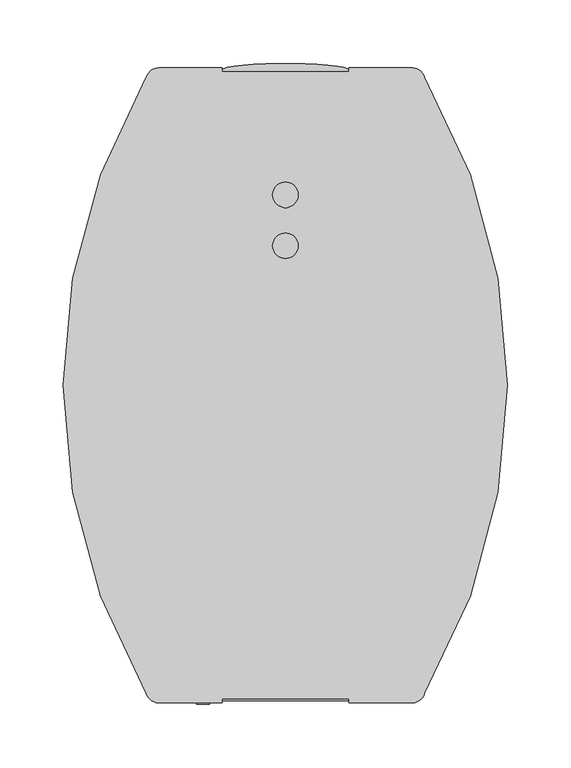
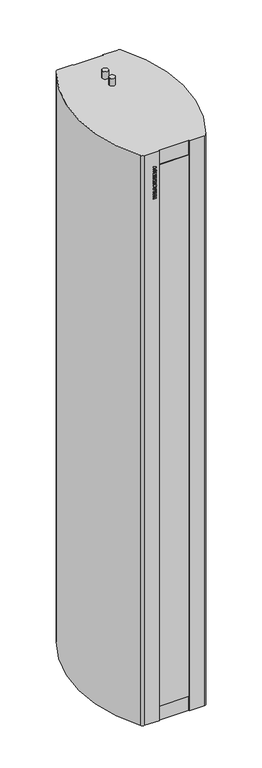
"""IFC4 building model written with IfcOpenShell, lengths in millimetres: proxy geometry, ADSK_Завеса дизайнерская_Водяная : KVC-S20W35-31."""

from ifc_helpers import new_model, si_unit, point, frame, origin, place, context, project, spatial, polyline, circle_curve, ellipse_curve, trimmed, outline, extrude, faceted_brep, source, transform, mapped, element, save
from ifc_brep_helpers import plane_surface, cylinder_surface, extruded_surface, advanced_brep


def mechanical_equipment_313d402d(model_context):
    return source(origin(), model_context, "Body", "SolidModel", [
        extrude(outline(polyline([(1850.0784314, -70.0), (1850.0784314, -60.0), (1853.2156863, -60.0), (1853.2156863, -61.7647059), (1854.9865196, -63.7745098), (1856.8186275, -60.0), (1860.6666667, -60.0), (1857.192402, -66.2775735), (1860.4705882, -70.0), (1856.1997549, -70.0), (1853.2156863, -66.2224265), (1853.2156863, -70.0), (1850.0784314, -70.0)])), frame((0.0, -251.0, 0.0), z_axis=(0.0, 1.0, 0.0), x_axis=(0.0, 0.0, 1.0)), (0.0, 0.0, 1.0), 1.0),
        extrude(outline(polyline([(1867.6642157, -61.5686275), (1868.1176471, -60.0), (1871.4509804, -60.0), (1868.0778186, -70.0), (1864.0398284, -70.0), (1860.6666667, -60.0), (1864.0, -60.0), (1864.4319853, -61.5686275), (1867.6642157, -61.5686275)]), holes=[polyline([(1867.0698529, -63.9215686), (1865.0814951, -63.9215686), (1866.0588235, -67.4540441), (1867.0698529, -63.9215686)])]), frame((0.0, -251.0, 0.0), z_axis=(0.0, 1.0, 0.0), x_axis=(0.0, 0.0, 1.0)), (0.0, 0.0, 1.0), 1.0),
        extrude(outline(polyline([(1872.4313725, -70.0), (1872.4313725, -60.0), (1880.2745098, -60.0), (1880.2745098, -62.3529412), (1875.5686275, -62.3529412), (1875.5686275, -70.0), (1872.4313725, -70.0)])), frame((0.0, -251.0, 0.0), z_axis=(0.0, 1.0, 0.0), x_axis=(0.0, 0.0, 1.0)), (0.0, 0.0, 1.0), 1.0),
        extrude(outline(polyline([(1887.6642157, -61.5686275), (1888.1176471, -60.0), (1891.4509804, -60.0), (1888.0778186, -70.0), (1884.0398284, -70.0), (1880.6666667, -60.0), (1884.0, -60.0), (1884.4319853, -61.5686275), (1887.6642157, -61.5686275)]), holes=[polyline([(1887.0698529, -63.9215686), (1885.0814951, -63.9215686), (1886.0588235, -67.4540441), (1887.0698529, -63.9215686)])]), frame((0.0, -251.0, 0.0), z_axis=(0.0, 1.0, 0.0), x_axis=(0.0, 0.0, 1.0)), (0.0, 0.0, 1.0), 1.0),
        extrude(outline(polyline([(1891.8431373, -63.3394608), (1892.9491422, -60.8026961), (1896.4601716, -59.8039216), (1898.8560049, -60.2297794), (1900.3342525, -61.4813113), (1900.8627451, -63.28125), (1900.4675245, -64.7870711), (1899.2022059, -65.9129902), (1896.3223039, -66.8106618), (1896.1905637, -68.4313725), (1896.9641544, -68.1050858), (1897.3333333, -67.0588235), (1900.4705882, -67.2395833), (1899.2925858, -69.4883578), (1896.4172794, -70.1960784), (1893.9969363, -69.8039216), (1892.6749387, -68.7285539), (1892.2352941, -67.276348), (1893.1023284, -65.3492647), (1895.9761029, -64.1237745), (1897.7254902, -62.8186275), (1897.4114583, -62.0818015), (1896.5183824, -61.7647059), (1895.3204657, -62.3958333), (1894.9803922, -63.5294118), (1891.8431373, -63.3394608)])), frame((0.0, -251.0, 0.0), z_axis=(0.0, 1.0, 0.0), x_axis=(0.0, 0.0, 1.0)), (0.0, 0.0, 1.0), 1.0),
        extrude(outline(polyline([(1902.4313725, -70.0), (1902.4313725, -60.0), (1905.5686275, -60.0), (1905.5686275, -64.1176471), (1908.9019608, -64.1176471), (1908.9019608, -60.0), (1912.0392157, -60.0), (1912.0392157, -70.0), (1908.9019608, -70.0), (1908.9019608, -66.4705882), (1905.5686275, -66.4705882), (1905.5686275, -70.0), (1902.4313725, -70.0)])), frame((0.0, -251.0, 0.0), z_axis=(0.0, 1.0, 0.0), x_axis=(0.0, 0.0, 1.0)), (0.0, 0.0, 1.0), 1.0),
        extrude(outline(polyline([(1914.0, -70.0), (1914.0, -60.0), (1916.9411765, -60.0), (1916.9411765, -65.4901961), (1920.6666667, -60.0), (1923.6078431, -60.0), (1923.6078431, -70.0), (1920.6666667, -70.0), (1920.6666667, -64.4730392), (1916.9197304, -70.0), (1914.0, -70.0)])), frame((0.0, -251.0, 0.0), z_axis=(0.0, 1.0, 0.0), x_axis=(0.0, 0.0, 1.0)), (0.0, 0.0, 1.0), 1.0),
        extrude(outline(polyline([(-60.0, -251.0), (-70.0, -251.0), (-70.0, -250.0), (-60.0, -250.0), (-60.0, -251.0)])), frame((0.0, 0.0, 1925.7647059), z_axis=(0.0, 0.0, 1.0), x_axis=(1.0, 0.0, 0.0)), (0.0, 0.0, 1.0), 3.1372549),
        extrude(outline(polyline([(1931.0588235, -70.0), (1931.0588235, -60.0), (1934.1960784, -60.0), (1934.1960784, -61.7647059), (1935.9669118, -63.7745098), (1937.7990196, -60.0), (1941.6470588, -60.0), (1938.1727941, -66.2775735), (1941.4509804, -70.0), (1937.1801471, -70.0), (1934.1960784, -66.2224265), (1934.1960784, -70.0), (1931.0588235, -70.0)])), frame((0.0, -251.0, 0.0), z_axis=(0.0, 1.0, 0.0), x_axis=(0.0, 0.0, 1.0)), (0.0, 0.0, 1.0), 1.0),
        extrude(outline(polyline([(1942.2352941, -64.9938725), (1942.9261642, -62.0603554), (1944.7291667, -60.346201), (1947.5386029, -59.8039216), (1950.3250613, -60.4304534), (1952.036152, -62.1859681), (1952.627451, -65.0765931), (1951.2732843, -68.8495711), (1947.4129902, -70.1960784), (1943.6032475, -68.8250613), (1942.2352941, -64.9938725)]), holes=[polyline([(1945.372549, -64.9938725), (1945.9301471, -67.1813725), (1947.4068627, -67.8431373), (1948.9295343, -67.1920956), (1949.4901961, -65.1286765), (1948.9525123, -62.8048407), (1947.4344363, -62.1568627), (1945.9270833, -62.8186275), (1945.372549, -64.9938725)])]), frame((0.0, -251.0, 0.0), z_axis=(0.0, 1.0, 0.0), x_axis=(0.0, 0.0, 1.0)), (0.0, 0.0, 1.0), 1.0),
        extrude(outline(polyline([(1953.4117647, -70.0), (1957.1280637, -60.0), (1960.4583333, -60.0), (1964.1960784, -70.0), (1960.8627451, -70.0), (1958.8039216, -62.8033088), (1956.7420343, -70.0), (1953.4117647, -70.0)])), frame((0.0, -251.0, 0.0), z_axis=(0.0, 1.0, 0.0), x_axis=(0.0, 0.0, 1.0)), (0.0, 0.0, 1.0), 1.0),
        advanced_brep(
        [(-50.0, 250.0, 2014.0), (-100.0, 250.0, 2014.0), (-109.6523684, 242.6137681, 2014.0), (-109.6523684, -242.6137681, 2014.0), (-100.0, -250.0, 2014.0), (-50.0, -250.0, 2014.0), (-50.0, -247.0, 2014.0), (50.0, -247.0, 2014.0), (50.0, -250.0, 2014.0), (100.0, -250.0, 2014.0), (109.6523684, -242.6137681, 2014.0), (109.6523684, 242.6137681, 2014.0), (100.0, 250.0, 2014.0), (50.0, 250.0, 2014.0), (50.0, 247.0, 2014.0), (-50.0, 247.0, 2014.0), (10.0, 150.0, 2014.0), (-10.0, 150.0, 2014.0), (10.0, 110.0, 2014.0), (-10.0, 110.0, 2014.0), (-50.0, 250.0, 0.0), (-50.0, 247.0, 0.0), (50.0, 247.0, 0.0), (50.0, 250.0, 0.0), (100.0, 250.0, 0.0), (109.6523684, 242.6137681, 0.0), (109.6523684, -242.6137681, 0.0), (100.0, -250.0, 0.0), (50.0, -250.0, 0.0), (50.0, -247.0, 0.0), (-50.0, -247.0, 0.0), (-50.0, -250.0, 0.0), (-100.0, -250.0, 0.0), (-109.6523684, -242.6137681, 0.0), (-109.6523684, 242.6137681, 0.0), (-100.0, 250.0, 0.0), (-10.0, 150.0, 2039.0), (10.0, 150.0, 2039.0), (-10.0, 110.0, 2039.0), (10.0, 110.0, 2039.0)],
        [
            (0, 1),
            (1, 2, circle_curve(frame((-100.0, 240.0, 2014.0), z_axis=(0.0, 0.0, 1.0), x_axis=(1.0, 0.0, 0.0)), 10.0)),
            (2, 3, circle_curve(frame((308.0454594, 0.0, 2014.0), z_axis=(0.0, 0.0, 1.0), x_axis=(1.0, 0.0, 0.0)), 483.0454594)),
            (3, 4, circle_curve(frame((-100.0, -240.0, 2014.0), z_axis=(0.0, 0.0, 1.0), x_axis=(1.0, 0.0, 0.0)), 10.0)),
            (4, 5),
            (5, 6),
            (6, 7),
            (7, 8),
            (8, 9),
            (9, 10, circle_curve(frame((100.0, -240.0, 2014.0), z_axis=(0.0, 0.0, 1.0), x_axis=(1.0, 0.0, 0.0)), 10.0)),
            (10, 11, circle_curve(frame((-308.0454594, 0.0, 2014.0), z_axis=(0.0, 0.0, 1.0), x_axis=(1.0, 0.0, 0.0)), 483.0454594)),
            (11, 12, circle_curve(frame((100.0, 240.0, 2014.0), z_axis=(0.0, 0.0, 1.0), x_axis=(1.0, 0.0, 0.0)), 10.0)),
            (12, 13),
            (13, 14),
            (14, 15),
            (15, 0),
            (16, 17, circle_curve(frame((0.0, 150.0, 2014.0), z_axis=(0.0, 0.0, -1.0), x_axis=(1.0, 0.0, 0.0)), 10.0)),
            (17, 16, circle_curve(frame((0.0, 150.0, 2014.0), z_axis=(0.0, 0.0, -1.0), x_axis=(1.0, 0.0, 0.0)), 10.0)),
            (18, 19, circle_curve(frame((0.0, 110.0, 2014.0), z_axis=(0.0, 0.0, -1.0), x_axis=(1.0, 0.0, 0.0)), 10.0)),
            (19, 18, circle_curve(frame((0.0, 110.0, 2014.0), z_axis=(0.0, 0.0, -1.0), x_axis=(1.0, 0.0, 0.0)), 10.0)),
            (20, 21),
            (21, 22),
            (22, 23),
            (23, 24),
            (24, 25, circle_curve(frame((100.0, 240.0, 0.0), z_axis=(0.0, 0.0, -1.0), x_axis=(1.0, 0.0, 0.0)), 10.0)),
            (25, 26, circle_curve(frame((-308.0454594, 0.0, 0.0), z_axis=(0.0, 0.0, -1.0), x_axis=(1.0, 0.0, 0.0)), 483.0454594)),
            (26, 27, circle_curve(frame((100.0, -240.0, 0.0), z_axis=(0.0, 0.0, -1.0), x_axis=(1.0, 0.0, 0.0)), 10.0)),
            (27, 28),
            (28, 29),
            (29, 30),
            (30, 31),
            (31, 32),
            (32, 33, circle_curve(frame((-100.0, -240.0, 0.0), z_axis=(0.0, 0.0, -1.0), x_axis=(1.0, 0.0, 0.0)), 10.0)),
            (33, 34, circle_curve(frame((308.0454594, 0.0, 0.0), z_axis=(0.0, 0.0, -1.0), x_axis=(1.0, 0.0, 0.0)), 483.0454594)),
            (34, 35, circle_curve(frame((-100.0, 240.0, 0.0), z_axis=(0.0, 0.0, -1.0), x_axis=(1.0, 0.0, 0.0)), 10.0)),
            (35, 20),
            (0, 20),
            (35, 1),
            (34, 2),
            (33, 3),
            (32, 4),
            (8, 28),
            (27, 9),
            (31, 5),
            (30, 6),
            (29, 7),
            (12, 24),
            (23, 13),
            (22, 14),
            (21, 15),
            (36, 37, circle_curve(frame((0.0, 150.0, 2039.0), z_axis=(0.0, 0.0, 1.0), x_axis=(1.0, 0.0, 0.0)), 10.0)),
            (37, 36, circle_curve(frame((0.0, 150.0, 2039.0), z_axis=(0.0, 0.0, 1.0), x_axis=(1.0, 0.0, 0.0)), 10.0)),
            (38, 39, circle_curve(frame((0.0, 110.0, 2039.0), z_axis=(0.0, 0.0, 1.0), x_axis=(1.0, 0.0, 0.0)), 10.0)),
            (39, 38, circle_curve(frame((0.0, 110.0, 2039.0), z_axis=(0.0, 0.0, 1.0), x_axis=(1.0, 0.0, 0.0)), 10.0)),
            (36, 17),
            (16, 37),
            (38, 19),
            (18, 39),
            (26, 10),
            (25, 11),
        ],
        [
            plane_surface(frame((-93.2688019, 250.0, 2014.0), z_axis=(0.0, 0.0, 1.0), x_axis=(-1.0, 0.0, 0.0))),
            plane_surface(frame((-93.2688019, 250.0, 0.0), z_axis=(0.0, 0.0, -1.0), x_axis=(1.0, 0.0, 0.0))),
            plane_surface(frame((-50.0, 250.0, 2014.0), z_axis=(0.0, 1.0, 0.0), x_axis=(0.0, 0.0, -1.0))),
            cylinder_surface(frame((-100.0, 240.0, 0.0), z_axis=(0.0, 0.0, 1.0), x_axis=(1.0, 0.0, 0.0)), 10.0),
            cylinder_surface(frame((308.0454594, 0.0, 0.0), z_axis=(0.0, 0.0, 1.0), x_axis=(1.0, 0.0, 0.0)), 483.0454594),
            cylinder_surface(frame((-100.0, -240.0, 0.0), z_axis=(0.0, 0.0, 1.0), x_axis=(1.0, 0.0, 0.0)), 10.0),
            plane_surface(frame((50.0, -250.0, 2014.0), z_axis=(0.0, -1.0, 0.0), x_axis=(0.0, 0.0, -1.0))),
            plane_surface(frame((-100.0, -250.0, 2014.0), z_axis=(0.0, -1.0, 0.0), x_axis=(0.0, 0.0, -1.0))),
            plane_surface(frame((-50.0, -250.0, 2014.0), z_axis=(1.0, 0.0, 0.0), x_axis=(0.0, 0.0, -1.0))),
            plane_surface(frame((-50.0, -247.0, 2014.0), z_axis=(0.0, -1.0, 0.0), x_axis=(0.0, 0.0, -1.0))),
            plane_surface(frame((50.0, -247.0, 2014.0), z_axis=(-1.0, 0.0, 0.0), x_axis=(0.0, 0.0, -1.0))),
            plane_surface(frame((100.0, 250.0, 2014.0), z_axis=(0.0, 1.0, 0.0), x_axis=(0.0, 0.0, -1.0))),
            plane_surface(frame((50.0, 250.0, 2014.0), z_axis=(-1.0, 0.0, 0.0), x_axis=(0.0, 0.0, -1.0))),
            plane_surface(frame((50.0, 247.0, 2014.0), z_axis=(0.0, 1.0, 0.0), x_axis=(0.0, 0.0, -1.0))),
            plane_surface(frame((-50.0, 247.0, 2014.0), z_axis=(1.0, 0.0, 0.0), x_axis=(0.0, 0.0, -1.0))),
            plane_surface(frame((10.0, 150.0, 2039.0), z_axis=(0.0, 0.0, 1.0), x_axis=(0.0, 1.0, 0.0))),
            cylinder_surface(frame((0.0, 150.0, 2014.0), z_axis=(0.0, 0.0, 1.0), x_axis=(1.0, 0.0, 0.0)), 10.0),
            cylinder_surface(frame((0.0, 110.0, 0.0), z_axis=(0.0, 0.0, 1.0), x_axis=(1.0, 0.0, 0.0)), 10.0),
            cylinder_surface(frame((100.0, -240.0, 0.0), z_axis=(0.0, 0.0, 1.0), x_axis=(1.0, 0.0, 0.0)), 10.0),
            cylinder_surface(frame((-308.0454594, 0.0, 0.0), z_axis=(0.0, 0.0, 1.0), x_axis=(1.0, 0.0, 0.0)), 483.0454594),
            cylinder_surface(frame((100.0, 240.0, 0.0), z_axis=(0.0, 0.0, 1.0), x_axis=(1.0, 0.0, 0.0)), 10.0),
        ],
        [
            (0, [[1, 2, 3, 4, 5, 6, 7, 8, 9, 10, 11, 12, 13, 14, 15, 16], [17, 18], [19, 20]]),
            (1, [[21, 22, 23, 24, 25, 26, 27, 28, 29, 30, 31, 32, 33, 34, 35, 36]]),
            (2, [[-1, 37, -36, 38]]),
            (3, [[-2, -38, -35, 39]]),
            (4, [[-3, -39, -34, 40]]),
            (5, [[-4, -40, -33, 41]]),
            (6, [[-9, 42, -28, 43]]),
            (7, [[-5, -41, -32, 44]]),
            (8, [[-6, -44, -31, 45]]),
            (9, [[-7, -45, -30, 46]]),
            (10, [[-8, -46, -29, -42]]),
            (11, [[-13, 47, -24, 48]]),
            (12, [[-14, -48, -23, 49]]),
            (13, [[-15, -49, -22, 50]]),
            (14, [[-16, -50, -21, -37]]),
            (15, [[51, 52]]),
            (15, [[53, 54]]),
            (16, [[-51, 55, -17, 56]]),
            (16, [[-52, -56, -18, -55]]),
            (17, [[-53, 57, -19, 58]]),
            (17, [[-54, -58, -20, -57]]),
            (18, [[-10, -43, -27, 59]]),
            (19, [[-11, -59, -26, 60]]),
            (20, [[-12, -60, -25, -47]]),
        ],
    ),
        faceted_brep([(50.0, -247.0, 1964.0), (-50.0, -247.0, 1964.0), (-50.0, -248.5, 1964.0), (50.0, -248.5, 1964.0), (50.0, -247.0, 50.0), (50.0, -248.5, 50.0), (-50.0, -248.5, 50.0), (-50.0, -247.0, 50.0)], [[[0, 1, 2, 3]], [[4, 5, 6, 7]], [[1, 0, 4, 7]], [[2, 1, 7, 6]], [[3, 2, 6, 5]], [[0, 3, 5, 4]]]),
        advanced_brep(
        [(-50.0, 248.5, 1964.0), (-50.0, 247.0, 1964.0), (50.0, 247.0, 1964.0), (50.0, 248.5, 1964.0), (-50.0, 248.5, 50.0), (50.0, 248.5, 50.0), (50.0, 247.0, 50.0), (-50.0, 247.0, 50.0)],
        [
            (0, 1),
            (1, 2),
            (2, 3),
            (3, 0, ellipse_curve(frame((0.0, 248.5, 1964.0), z_axis=(0.0, 0.0, 1.0), x_axis=(-1.0, 0.0, 0.0)), 50.0, 5.0)),
            (4, 5, ellipse_curve(frame((0.0, 248.5, 50.0), z_axis=(0.0, 0.0, -1.0), x_axis=(-1.0, 0.0, 0.0)), 50.0, 5.0)),
            (5, 6),
            (6, 7),
            (7, 4),
            (0, 4),
            (7, 1),
            (6, 2),
            (5, 3),
        ],
        [
            plane_surface(frame((-50.0, -247.0, 1964.0), z_axis=(0.0, 0.0, 1.0), x_axis=(-1.0, 0.0, 0.0))),
            plane_surface(frame((-50.0, -247.0, 50.0), z_axis=(0.0, 0.0, -1.0), x_axis=(1.0, 0.0, 0.0))),
            plane_surface(frame((-50.0, 248.5, 1964.0), z_axis=(-1.0, 0.0, 0.0), x_axis=(0.0, 0.0, -1.0))),
            plane_surface(frame((-50.0, 247.0, 1964.0), z_axis=(0.0, -1.0, 0.0), x_axis=(0.0, 0.0, -1.0))),
            plane_surface(frame((50.0, 247.0, 1964.0), z_axis=(1.0, 0.0, 0.0), x_axis=(0.0, 0.0, -1.0))),
            extruded_surface(trimmed(ellipse_curve(frame((0.0, 248.5, -1914.0), z_axis=(0.0, 0.0, 1.0), x_axis=(-1.0, 0.0, 0.0)), 50.0, 5.0), [point((50.0, 248.5, -1914.0))], [point((-50.0, 248.5, -1914.0))], True, "CARTESIAN"), (0.0, 0.0, 1914.0), 1914.0),
        ],
        [
            (0, [[1, 2, 3, 4]]),
            (1, [[5, 6, 7, 8]]),
            (2, [[-1, 9, -8, 10]]),
            (3, [[-2, -10, -7, 11]]),
            (4, [[-3, -11, -6, 12]]),
            (5, [[-4, -12, -5, -9]]),
        ],
    ),
    ])


if __name__ == "__main__":
    model = new_model("IFC4")
    model_context = context("Model", 3, world=origin())
    ifc_project = project(units=[si_unit("LENGTHUNIT", "METRE", prefix="MILLI")], contexts=[model_context])
    site = spatial("IfcSite", under=ifc_project)
    building = spatial("IfcBuilding", under=site)
    placement = place(None, origin())
    mechanical_equipment_shape = mechanical_equipment_313d402d(model_context)
    element("IfcBuildingElementProxy", 1, Name="ADSK_Завеса дизайнерская_Водяная : KVC-S20W35-31", ObjectType="ADSK_Завеса дизайнерская_Водяная : KVC-S20W35-31", at=placement, inside=building, context=model_context, shape_type="MappedRepresentation", body=[
        mapped(mechanical_equipment_shape, transform((0.0, 0.0, 0.0), x_axis=(1.0, 0.0, 0.0), y_axis=(0.0, 1.0, 0.0), z_axis=(0.0, 0.0, 1.0))),
    ])
    save(model, "model.ifc")
